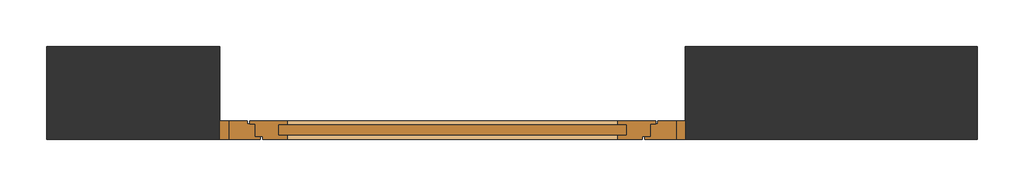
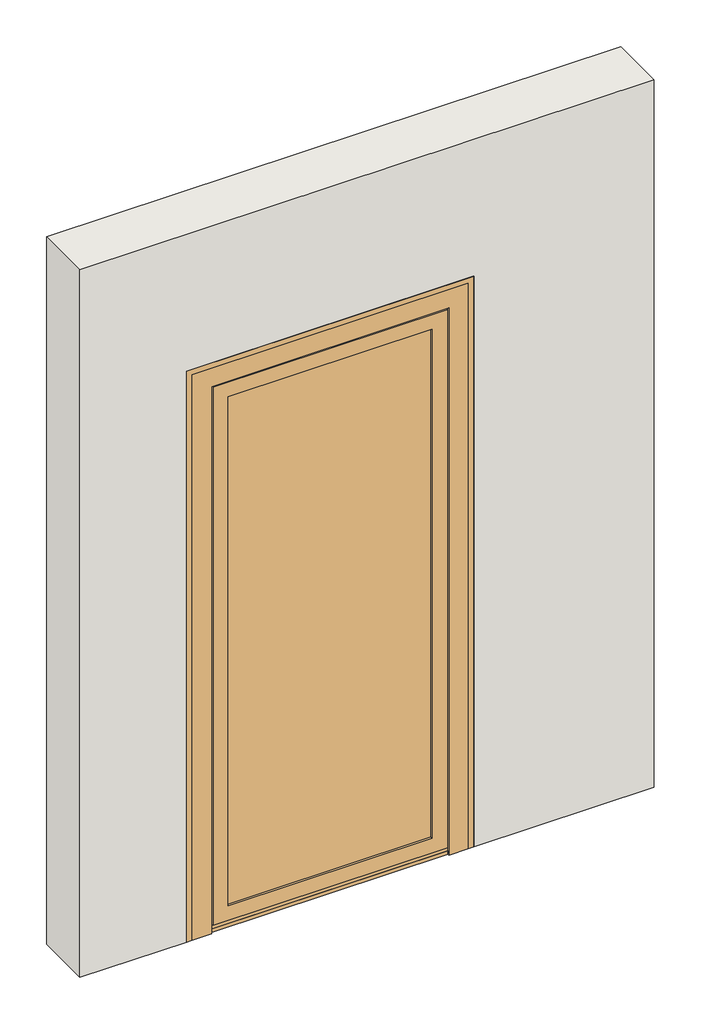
# One storey, incomplete: 1 door, 1 wall.
"""IFC4 building model written with IfcOpenShell, lengths in millimetres."""

from ifc_helpers import new_model, si_unit, frame, origin, place, context, project, spatial, polyline, outline, extrude, transform, mapped, element, save
from components import door_d2b9fd3c

model = new_model("IFC4")

# Units and contexts
model_context = context("Model", 3, world=origin())
ifc_project = project(units=[si_unit("LENGTHUNIT", "METRE", prefix="MILLI")], contexts=[model_context])

# Site, building, storey
site = spatial("IfcSite", under=ifc_project)
building = spatial("IfcBuilding", under=site)
storey = spatial("IfcBuildingStorey", under=building, Name="Этаж 01", Elevation=0.0)

# Door
placement = place(None, origin())
door_shape = door_d2b9fd3c(model_context)
element("IfcDoor", 1, ObjectType="Дверь.Alumark_однопольная_S40 : 960х2080 Правая Открывание внутрь (СП 24мм Обычный)", at=placement, inside=storey, context=model_context, shape_type="MappedRepresentation", body=[
    mapped(door_shape, transform((997.3612928, -100.0, 0.0), x_axis=(-1.0, 0.0, 0.0), y_axis=(0.0, -1.0, 0.0), z_axis=(0.0, 0.0, 1.0))),
])

# Wall
element("IfcWall", 2, ObjectType="Типовой - 200мм", at=placement, inside=storey, context=model_context, shape_type="SweptSolid", body=[
    extrude(outline(polyline([(0.0, 2000.0), (2603.1870462, 2000.0), (2603.1870462, 0.0), (0.0, 0.0), (0.0, 372.3612928), (2100.0, 372.3612928), (2100.0, 1372.3612928), (0.0, 1372.3612928), (0.0, 2000.0)])), frame((0.0, -200.0, 0.0), z_axis=(0.0, 1.0, 0.0), x_axis=(0.0, 0.0, 1.0)), (0.0, 0.0, 1.0), 200.0),
])

save(model, "model.ifc")
